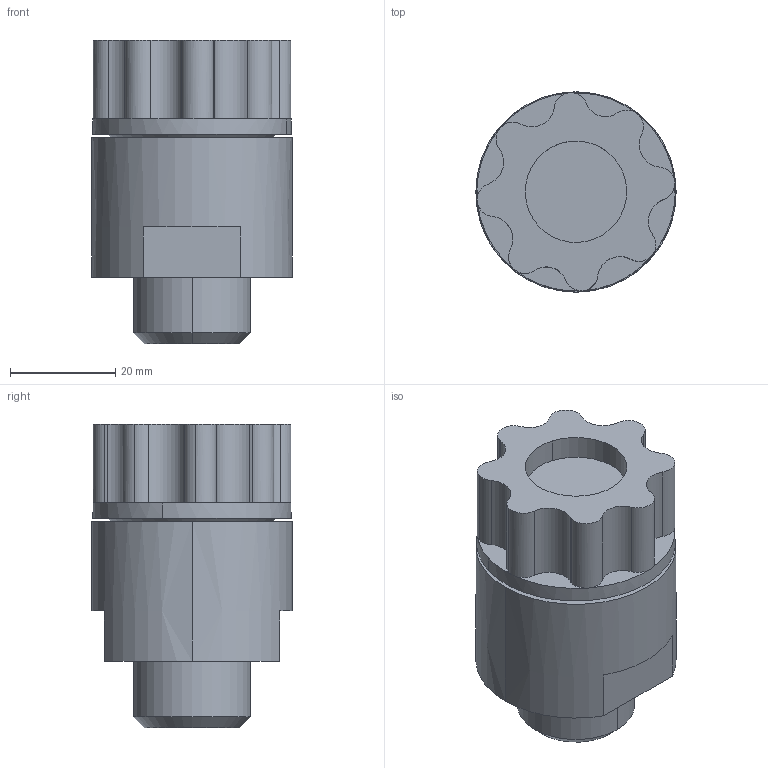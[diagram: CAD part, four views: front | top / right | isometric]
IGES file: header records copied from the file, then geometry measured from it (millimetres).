
Start section: SolidWorks IGES file using analytic representation for surfaces
Global section: file name: S:\Product Visuals\Defeatured Models and Parts Library\Parts Library IGES & STEP\Liquid Fittings\Front Mount liquid Fittings\Synchro Flare\30LPM\Fitting Synchro-Flare 12.IGS; native system: SolidWorks 2012; preprocessor: SolidWorks 2012; author: rachel.dressel; date: 120926.120616; units: inch
Bounding box: 38.1 x 38.1 x 57.76 mm (x, y, z)
Volume: 49986.8 mm3; surface area: 9614.4 mm2
Topology: 1 solids, 1 shells, 53 faces, 131 edges, 84 vertices
Faces by surface type: revolution 35, plane 18
